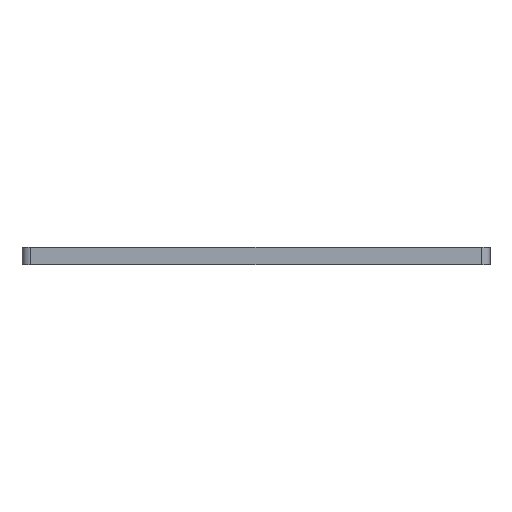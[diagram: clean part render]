
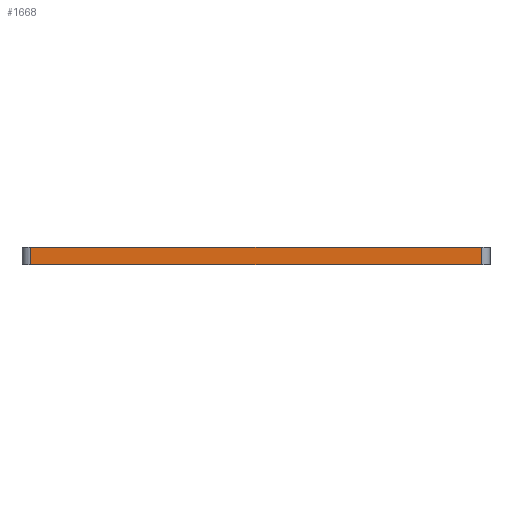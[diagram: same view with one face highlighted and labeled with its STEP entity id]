
A CAD part, front view. The second image highlights one B-rep face of the part: STEP entity #1668.
In plain terms, the highlighted planar face has unit normal (0, -1, 0).
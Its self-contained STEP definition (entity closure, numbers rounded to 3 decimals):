
#44 = PLANE('',#45);
#45 = AXIS2_PLACEMENT_3D('',#46,#47,#48);
#46 = CARTESIAN_POINT('',(-163.,-200.,10.));
#47 = DIRECTION('',(0.,0.,1.));
#48 = DIRECTION('',(1.,0.,0.));
#72 = CYLINDRICAL_SURFACE('',#73,6.);
#73 = AXIS2_PLACEMENT_3D('',#74,#75,#76);
#74 = CARTESIAN_POINT('',(-157.,-194.,-2.));
#75 = DIRECTION('',(0.,0.,1.));
#76 = DIRECTION('',(-1.,-0.,0.));
#100 = PLANE('',#101);
#101 = AXIS2_PLACEMENT_3D('',#102,#103,#104);
#102 = CARTESIAN_POINT('',(-163.,-200.,-2.));
#103 = DIRECTION('',(0.,0.,1.));
#104 = DIRECTION('',(1.,0.,0.));
#143 = VERTEX_POINT('',#144);
#144 = CARTESIAN_POINT('',(-157.,-200.,10.));
#166 = EDGE_CURVE('',#143,#167,#169,.T.);
#167 = VERTEX_POINT('',#168);
#168 = CARTESIAN_POINT('',(157.,-200.,10.));
#169 = SURFACE_CURVE('',#170,(#174,#181),.PCURVE_S1.);
#170 = LINE('',#171,#172);
#171 = CARTESIAN_POINT('',(-163.,-200.,10.));
#172 = VECTOR('',#173,1.);
#173 = DIRECTION('',(1.,0.,0.));
#174 = PCURVE('',#44,#175);
#175 = DEFINITIONAL_REPRESENTATION('',(#176),#180);
#176 = LINE('',#177,#178);
#177 = CARTESIAN_POINT('',(0.,0.));
#178 = VECTOR('',#179,1.);
#179 = DIRECTION('',(1.,0.));
#180 = ( GEOMETRIC_REPRESENTATION_CONTEXT(2) 
PARAMETRIC_REPRESENTATION_CONTEXT() REPRESENTATION_CONTEXT('2D SPACE',''
  ) );
#181 = PCURVE('',#182,#187);
#182 = PLANE('',#183);
#183 = AXIS2_PLACEMENT_3D('',#184,#185,#186);
#184 = CARTESIAN_POINT('',(-163.,-200.,-2.));
#185 = DIRECTION('',(0.,1.,0.));
#186 = DIRECTION('',(0.,0.,1.));
#187 = DEFINITIONAL_REPRESENTATION('',(#188),#192);
#188 = LINE('',#189,#190);
#189 = CARTESIAN_POINT('',(12.,0.));
#190 = VECTOR('',#191,1.);
#191 = DIRECTION('',(0.,1.));
#192 = ( GEOMETRIC_REPRESENTATION_CONTEXT(2) 
PARAMETRIC_REPRESENTATION_CONTEXT() REPRESENTATION_CONTEXT('2D SPACE',''
  ) );
#215 = CYLINDRICAL_SURFACE('',#216,6.);
#216 = AXIS2_PLACEMENT_3D('',#217,#218,#219);
#217 = CARTESIAN_POINT('',(157.,-194.,-2.));
#218 = DIRECTION('',(0.,0.,1.));
#219 = DIRECTION('',(1.,0.,-0.));
#938 = VERTEX_POINT('',#939);
#939 = CARTESIAN_POINT('',(-157.,-200.,-2.));
#961 = EDGE_CURVE('',#938,#143,#962,.T.);
#962 = SURFACE_CURVE('',#963,(#967,#974),.PCURVE_S1.);
#963 = LINE('',#964,#965);
#964 = CARTESIAN_POINT('',(-157.,-200.,-2.));
#965 = VECTOR('',#966,1.);
#966 = DIRECTION('',(0.,0.,1.));
#967 = PCURVE('',#72,#968);
#968 = DEFINITIONAL_REPRESENTATION('',(#969),#973);
#969 = LINE('',#970,#971);
#970 = CARTESIAN_POINT('',(1.571,0.));
#971 = VECTOR('',#972,1.);
#972 = DIRECTION('',(0.,1.));
#973 = ( GEOMETRIC_REPRESENTATION_CONTEXT(2) 
PARAMETRIC_REPRESENTATION_CONTEXT() REPRESENTATION_CONTEXT('2D SPACE',''
  ) );
#974 = PCURVE('',#182,#975);
#975 = DEFINITIONAL_REPRESENTATION('',(#976),#980);
#976 = LINE('',#977,#978);
#977 = CARTESIAN_POINT('',(0.,6.));
#978 = VECTOR('',#979,1.);
#979 = DIRECTION('',(1.,0.));
#980 = ( GEOMETRIC_REPRESENTATION_CONTEXT(2) 
PARAMETRIC_REPRESENTATION_CONTEXT() REPRESENTATION_CONTEXT('2D SPACE',''
  ) );
#1043 = EDGE_CURVE('',#938,#1044,#1046,.T.);
#1044 = VERTEX_POINT('',#1045);
#1045 = CARTESIAN_POINT('',(157.,-200.,-2.));
#1046 = SURFACE_CURVE('',#1047,(#1051,#1058),.PCURVE_S1.);
#1047 = LINE('',#1048,#1049);
#1048 = CARTESIAN_POINT('',(-163.,-200.,-2.));
#1049 = VECTOR('',#1050,1.);
#1050 = DIRECTION('',(1.,0.,0.));
#1051 = PCURVE('',#100,#1052);
#1052 = DEFINITIONAL_REPRESENTATION('',(#1053),#1057);
#1053 = LINE('',#1054,#1055);
#1054 = CARTESIAN_POINT('',(0.,0.));
#1055 = VECTOR('',#1056,1.);
#1056 = DIRECTION('',(1.,0.));
#1057 = ( GEOMETRIC_REPRESENTATION_CONTEXT(2) 
PARAMETRIC_REPRESENTATION_CONTEXT() REPRESENTATION_CONTEXT('2D SPACE',''
  ) );
#1058 = PCURVE('',#182,#1059);
#1059 = DEFINITIONAL_REPRESENTATION('',(#1060),#1064);
#1060 = LINE('',#1061,#1062);
#1061 = CARTESIAN_POINT('',(0.,0.));
#1062 = VECTOR('',#1063,1.);
#1063 = DIRECTION('',(0.,1.));
#1064 = ( GEOMETRIC_REPRESENTATION_CONTEXT(2) 
PARAMETRIC_REPRESENTATION_CONTEXT() REPRESENTATION_CONTEXT('2D SPACE',''
  ) );
#1668 = ADVANCED_FACE('',(#1669),#182,.F.);
#1669 = FACE_BOUND('',#1670,.F.);
#1670 = EDGE_LOOP('',(#1671,#1672,#1673,#1674));
#1671 = ORIENTED_EDGE('',*,*,#1043,.F.);
#1672 = ORIENTED_EDGE('',*,*,#961,.T.);
#1673 = ORIENTED_EDGE('',*,*,#166,.T.);
#1674 = ORIENTED_EDGE('',*,*,#1675,.F.);
#1675 = EDGE_CURVE('',#1044,#167,#1676,.T.);
#1676 = SURFACE_CURVE('',#1677,(#1681,#1688),.PCURVE_S1.);
#1677 = LINE('',#1678,#1679);
#1678 = CARTESIAN_POINT('',(157.,-200.,-2.));
#1679 = VECTOR('',#1680,1.);
#1680 = DIRECTION('',(0.,0.,1.));
#1681 = PCURVE('',#182,#1682);
#1682 = DEFINITIONAL_REPRESENTATION('',(#1683),#1687);
#1683 = LINE('',#1684,#1685);
#1684 = CARTESIAN_POINT('',(0.,320.));
#1685 = VECTOR('',#1686,1.);
#1686 = DIRECTION('',(1.,0.));
#1687 = ( GEOMETRIC_REPRESENTATION_CONTEXT(2) 
PARAMETRIC_REPRESENTATION_CONTEXT() REPRESENTATION_CONTEXT('2D SPACE',''
  ) );
#1688 = PCURVE('',#215,#1689);
#1689 = DEFINITIONAL_REPRESENTATION('',(#1690),#1694);
#1690 = LINE('',#1691,#1692);
#1691 = CARTESIAN_POINT('',(-1.571,0.));
#1692 = VECTOR('',#1693,1.);
#1693 = DIRECTION('',(-0.,1.));
#1694 = ( GEOMETRIC_REPRESENTATION_CONTEXT(2) 
PARAMETRIC_REPRESENTATION_CONTEXT() REPRESENTATION_CONTEXT('2D SPACE',''
  ) );
